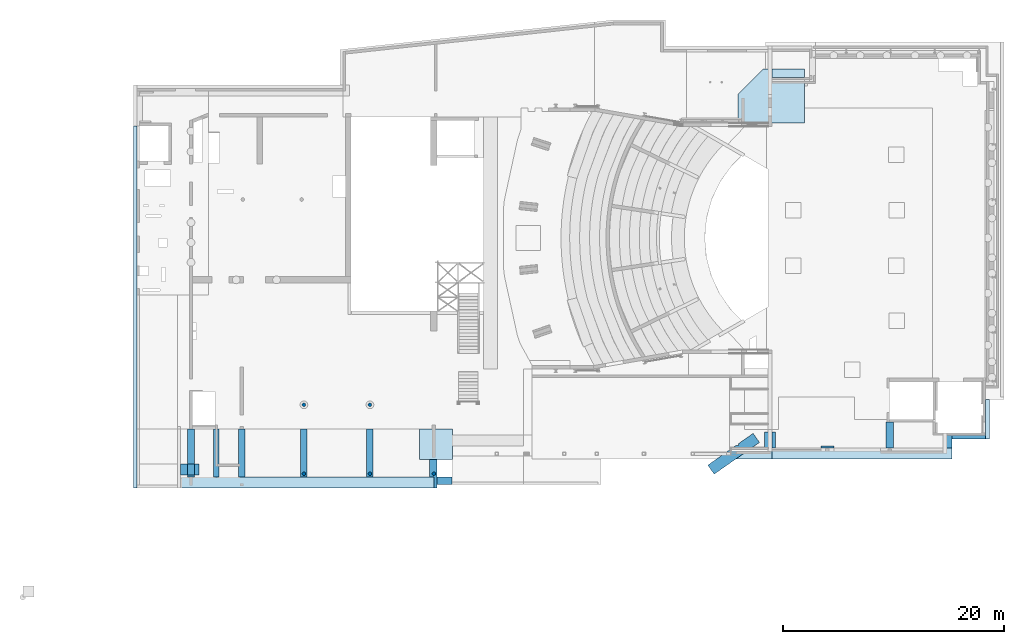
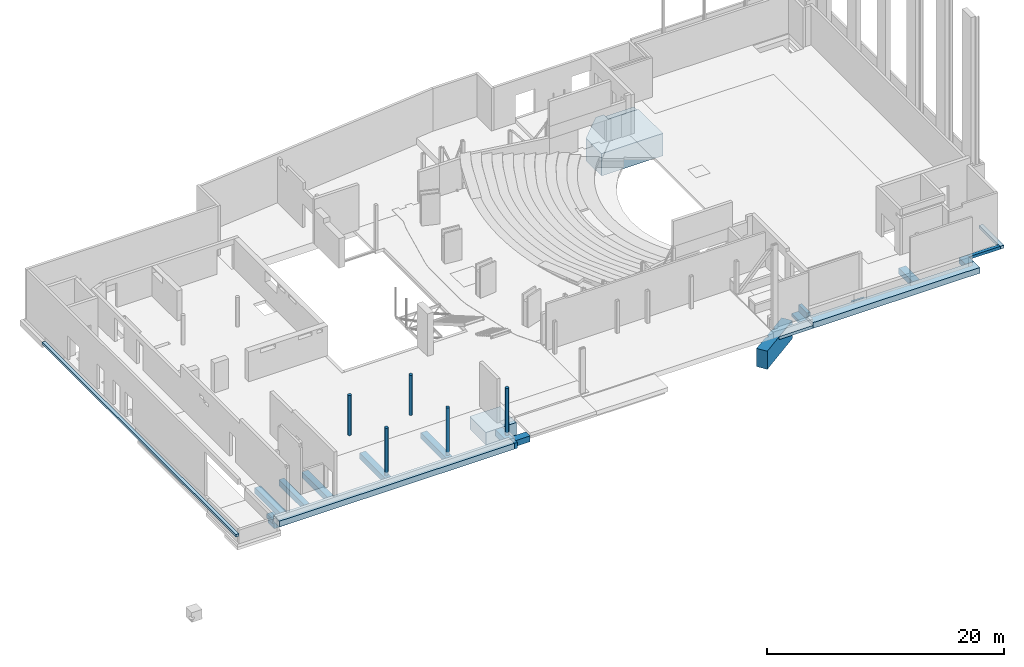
# One storey, part 1 of 34: 21 footings, 5 columns.
"""IFC2X3 building model written with IfcOpenShell, lengths in millimetres."""

from ifc_helpers import new_model, entity, si_unit, converted_unit, derived_unit, direction, frame, frame_2d, origin, origin_2d_with_axis, place, context, subcontext, project, spatial, polyline, rectangle, circle, hollow_circle, outline, extrude, faceted_brep, source, transform, mapped, material, material_list, type_object, type_shapes, element, save


model = new_model("IFC2X3")

# Units and contexts
model_context = context("Model", 3, precision=0.01, world=origin(), true_north=direction((6.12303176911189e-17, 1.0)))
body_context = subcontext(model_context, "Body", "Model", "MODEL_VIEW")
ifc_project = project(units=[si_unit("LENGTHUNIT", "METRE", prefix="MILLI"), si_unit("AREAUNIT", "SQUARE_METRE", prefix="MILLI"), si_unit("VOLUMEUNIT", "CUBIC_METRE"), converted_unit("PLANEANGLEUNIT", "DEGREE", entity("IfcRatioMeasure", 0.0174532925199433), si_unit("PLANEANGLEUNIT", "RADIAN"), dimensions=[0, 0, 0, 0, 0, 0, 0]), si_unit("MASSUNIT", "GRAM", prefix="KILO"), derived_unit("MASSDENSITYUNIT", [(si_unit("MASSUNIT", "GRAM", prefix="KILO"), 1), (si_unit("LENGTHUNIT", "METRE"), -3)]), derived_unit("MOMENTOFINERTIAUNIT", [(si_unit("LENGTHUNIT", "METRE"), 4)]), si_unit("TIMEUNIT", "SECOND"), si_unit("FREQUENCYUNIT", "HERTZ"), si_unit("THERMODYNAMICTEMPERATUREUNIT", "DEGREE_CELSIUS"), derived_unit("THERMALTRANSMITTANCEUNIT", [(si_unit("MASSUNIT", "GRAM", prefix="KILO"), 1), (si_unit("THERMODYNAMICTEMPERATUREUNIT", "KELVIN"), -1), (si_unit("TIMEUNIT", "SECOND"), -3)]), derived_unit("VOLUMETRICFLOWRATEUNIT", [(si_unit("LENGTHUNIT", "METRE"), 3), (si_unit("TIMEUNIT", "SECOND"), -1)]), si_unit("ELECTRICCURRENTUNIT", "AMPERE"), si_unit("ELECTRICVOLTAGEUNIT", "VOLT"), si_unit("POWERUNIT", "WATT"), si_unit("FORCEUNIT", "NEWTON", prefix="KILO"), si_unit("ILLUMINANCEUNIT", "LUX"), si_unit("LUMINOUSFLUXUNIT", "LUMEN"), si_unit("LUMINOUSINTENSITYUNIT", "CANDELA"), derived_unit("USERDEFINED", [(si_unit("MASSUNIT", "GRAM", prefix="KILO"), -1), (si_unit("LENGTHUNIT", "METRE"), -2), (si_unit("TIMEUNIT", "SECOND"), 3), (si_unit("LUMINOUSFLUXUNIT", "LUMEN"), 1)]), derived_unit("LINEARVELOCITYUNIT", [(si_unit("LENGTHUNIT", "METRE"), 1), (si_unit("TIMEUNIT", "SECOND"), -1)]), si_unit("PRESSUREUNIT", "PASCAL"), derived_unit("USERDEFINED", [(si_unit("LENGTHUNIT", "METRE"), -2), (si_unit("MASSUNIT", "GRAM", prefix="KILO"), 1), (si_unit("TIMEUNIT", "SECOND"), -2)]), derived_unit("LINEARFORCEUNIT", [(si_unit("MASSUNIT", "GRAM", prefix="KILO"), 1), (si_unit("LENGTHUNIT", "METRE"), 1), (si_unit("TIMEUNIT", "SECOND"), -2), (si_unit("LENGTHUNIT", "METRE"), -1)]), derived_unit("PLANARFORCEUNIT", [(si_unit("MASSUNIT", "GRAM", prefix="KILO"), 1), (si_unit("LENGTHUNIT", "METRE"), 1), (si_unit("TIMEUNIT", "SECOND"), -2), (si_unit("LENGTHUNIT", "METRE"), -2)])], contexts=[model_context])

# Site, building, storey
site_placement = place(None, origin())
site = spatial("IfcSite", under=ifc_project, at=site_placement, Name="Theater aan de Parade", CompositionType="ELEMENT")
building_placement = place(site_placement, origin())
building = spatial("IfcBuilding", under=site, at=building_placement, Name="Theater aan de Parade", CompositionType="ELEMENT")
storey_placement = place(building_placement, frame((0.0, 0.0, 3.49116848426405e-09)))
storey = spatial("IfcBuildingStorey", under=building, at=storey_placement, Name="00 begane grond", CompositionType="ELEMENT", Elevation=3.49116848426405e-09)

# Footings
ifc_material_1 = material(Name="00_PBT_MAT_beton t.p.g._C30/37")
type_product_1 = type_object("IfcTypeProduct", Name="16_PBT_SF_funderingsbalk:C30/37_600x600", material=ifc_material_1)
shared_shape_1 = source(origin(), body_context, "Body", "SweptSolid", [
    extrude(rectangle(XDim=4320.00000000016, YDim=600.000000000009, at=frame_2d((9.09494701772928e-13, 1.10844666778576e-12), x_axis=(1.0, 0.0))), frame((19803.857002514, 13030.0, -1135.0), z_axis=(0.0, 0.0, 1.0), x_axis=(0.0, -1.0, 0.0)), (0.0, 0.0, 1.0), 600.0),
])
type_shapes(type_product_1, [shared_shape_1])
footing_1_placement = place(storey_placement, frame((0.0, 0.0, -3.49116848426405e-09)))
element("IfcFooting", 1, at=footing_1_placement, inside=storey, type_object=type_product_1, material=ifc_material_1, Name="16_PBT_SF_funderingsbalk:C30/37_600x600", ObjectType="16_PBT_SF_funderingsbalk:C30/37_600x600", context=body_context, shape_type="MappedRepresentation", body=[
    mapped(shared_shape_1, transform((0.0, 0.0, 0.0), scale=1.0)),
])
type_product_2 = type_object("IfcTypeProduct", Name="16_PBT_SF_funderingsbalk:C30/37_600x600", material=ifc_material_1)
shared_shape_2 = source(origin(), body_context, "Body", "SweptSolid", [
    extrude(rectangle(XDim=4320.00000000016, YDim=600.000000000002, at=frame_2d((-739.999999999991, 2.24531504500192e-12), x_axis=(1.0, 0.0))), frame((15203.857002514, 12290.0, -1135.0), z_axis=(0.0, 0.0, 1.0), x_axis=(0.0, -1.0, 0.0)), (0.0, 0.0, 1.0), 600.0),
])
type_shapes(type_product_2, [shared_shape_2])
footing_2_placement = place(storey_placement, frame((0.0, 0.0, -3.49116848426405e-09)))
element("IfcFooting", 2, at=footing_2_placement, inside=storey, type_object=type_product_2, material=ifc_material_1, Name="16_PBT_SF_funderingsbalk:C30/37_600x600", ObjectType="16_PBT_SF_funderingsbalk:C30/37_600x600", context=body_context, shape_type="MappedRepresentation", body=[
    mapped(shared_shape_2, transform((0.0, 0.0, 0.0), scale=1.0)),
])
type_product_3 = type_object("IfcTypeProduct", Name="16_PBT_SF_funderingsbalk:C30/37_500x600", material=ifc_material_1)
shared_shape_3 = source(origin(), body_context, "Body", "SweptSolid", [
    extrude(rectangle(XDim=4320.00000000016, YDim=500.000000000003, at=frame_2d((0.0, -1.08002495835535e-12), x_axis=(1.0, 0.0))), frame((17503.8570025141, 13030.0, -1135.0), z_axis=(0.0, 0.0, 1.0), x_axis=(0.0, -1.0, 0.0)), (0.0, 0.0, 1.0), 600.0),
])
type_shapes(type_product_3, [shared_shape_3])
footing_3_placement = place(storey_placement, frame((0.0, 0.0, -3.49116848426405e-09)))
element("IfcFooting", 3, at=footing_3_placement, inside=storey, type_object=type_product_3, material=ifc_material_1, Name="16_PBT_SF_funderingsbalk:C30/37_500x600", ObjectType="16_PBT_SF_funderingsbalk:C30/37_500x600", context=body_context, shape_type="MappedRepresentation", body=[
    mapped(shared_shape_3, transform((0.0, 0.0, 0.0), scale=1.0)),
])
type_product_4 = type_object("IfcTypeProduct", Name="16_PBT_SF_funderingsbalk:C30/37_700x600", material=ifc_material_1)
shared_shape_4 = source(origin(), body_context, "Body", "SweptSolid", [
    extrude(outline(polyline([(-1517.73827627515, -450.0), (52.5794254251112, -450.0), (52.5794254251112, -50.0), (1052.57942542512, -50.0), (1052.57942542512, 250.0), (762.579425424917, 250.0), (62.579425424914, 250.0), (-1517.73827627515, 250.0), (-1517.73827627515, -450.0)])), frame((37203.8581300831, 10922.5794254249, -1135.0), z_axis=(0.0, 0.0, 1.0), x_axis=(0.0, -1.0, 0.0)), (0.0, 0.0, 1.0), 600.0),
])
type_shapes(type_product_4, [shared_shape_4])
footing_4_placement = place(storey_placement, frame((0.0, 0.0, -3.49116848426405e-09)))
element("IfcFooting", 4, at=footing_4_placement, inside=storey, type_object=type_product_4, material=ifc_material_1, Name="16_PBT_SF_funderingsbalk:C30/37_700x600", ObjectType="16_PBT_SF_funderingsbalk:C30/37_700x600", context=body_context, shape_type="MappedRepresentation", body=[
    mapped(shared_shape_4, transform((0.0, 0.0, 0.0), scale=1.0)),
])
type_product_5 = type_object("IfcTypeProduct", Name="16_PBT_SF_funderingsbalk:C30/37_1000x740", material=ifc_material_1)
shared_shape_5 = source(origin(), body_context, "Body", "SweptSolid", [
    extrude(outline(polyline([(-1162.42336301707, -400.0), (-487.423363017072, -400.0), (692.061041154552, -400.0), (2120.2090478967, 600.0), (-1162.42336301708, 600.0), (-1162.42336301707, -400.0)])), frame((66543.8327379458, 13070.0, -990.0), z_axis=(0.0, 0.0, 1.0), x_axis=(-1.0, 0.0, 0.0)), (0.0, 0.0, 1.0), 309.999999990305),
])
type_shapes(type_product_5, [shared_shape_5])
footing_5_placement = place(storey_placement, frame((0.0, 0.0, -3.49116848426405e-09)))
element("IfcFooting", 5, at=footing_5_placement, inside=storey, type_object=type_product_5, material=ifc_material_1, Name="16_PBT_SF_funderingsbalk:C30/37_1000x740", ObjectType="16_PBT_SF_funderingsbalk:C30/37_1000x740", context=body_context, shape_type="MappedRepresentation", body=[
    mapped(shared_shape_5, transform((0.0, 0.0, 0.0), scale=1.0)),
])
type_product_6 = type_object("IfcTypeProduct", Name="16_PBT_SF_funderingsbalk:C30/37_800x600", material=ifc_material_1)
shared_shape_6 = source(origin(), body_context, "Body", "SweptSolid", [
    extrude(rectangle(XDim=1130.00000000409, YDim=800.000000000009, at=frame_2d((-5.40012479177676e-12, -8.66862137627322e-12), x_axis=(1.0, 0.0))), frame((83570.0, 14035.0, -990.0), z_axis=(0.0, 0.0, 1.0), x_axis=(0.0, -1.0, 0.0)), (0.0, 0.0, 1.0), 600.0),
])
type_shapes(type_product_6, [shared_shape_6])
footing_6_placement = place(storey_placement, frame((0.0, 0.0, -3.49116848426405e-09)))
element("IfcFooting", 6, at=footing_6_placement, inside=storey, type_object=type_product_6, material=ifc_material_1, Name="16_PBT_SF_funderingsbalk:C30/37_800x600", ObjectType="16_PBT_SF_funderingsbalk:C30/37_800x600", context=body_context, shape_type="MappedRepresentation", body=[
    mapped(shared_shape_6, transform((0.0, 0.0, 0.0), scale=1.0)),
])
type_product_7 = type_object("IfcTypeProduct", Name="16_PBT_SF_funderingsbalk:C30/37_1000x600", material=ifc_material_1)
shared_shape_7 = source(origin(), body_context, "Body", "SweptSolid", [
    extrude(rectangle(XDim=16263.7438990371, YDim=1000.0, at=frame_2d((168.751220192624, -299.999999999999), x_axis=(1.0, 0.0))), frame((75669.3768302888, 13270.0, -990.0)), (0.0, 0.0, 1.0), 600.0),
])
type_shapes(type_product_7, [shared_shape_7])
footing_7_placement = place(storey_placement, frame((0.0, 0.0, -3.49116848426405e-09)))
element("IfcFooting", 7, at=footing_7_placement, inside=storey, type_object=type_product_7, material=ifc_material_1, Name="16_PBT_SF_funderingsbalk:C30/37_1000x600", ObjectType="16_PBT_SF_funderingsbalk:C30/37_1000x600", context=body_context, shape_type="MappedRepresentation", body=[
    mapped(shared_shape_7, transform((0.0, 0.0, 0.0), scale=1.0)),
])
type_product_8 = type_object("IfcTypeProduct", Name="16_PBT_SFO_beton_poer:C30/37_1000x5000x1870", material=ifc_material_1)
shared_shape_8 = source(origin(), body_context, "Body", "SweptSolid", [
    extrude(outline(polyline([(-786.12857746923, -2398.65592871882), (213.871422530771, -2398.65592871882), (213.871422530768, -768.135712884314), (68.2755496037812, -666.188385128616), (211.669658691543, -461.400374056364), (213.871422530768, -462.942065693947), (213.871422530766, 458.011481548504), (9.08341145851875, 601.405590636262), (213.87142253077, 893.873180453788), (213.871422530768, 2601.34407128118), (-786.128577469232, 2601.34407128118), (-786.12857746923, -2398.65592871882)])), frame((64163.451668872, 13247.5113804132, -2550.0), z_axis=(0.0, 0.0, 1.0), x_axis=(-0.573576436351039, 0.819152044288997, 0.0)), (0.0, 0.0, 1.0), 1870.0),
])
type_shapes(type_product_8, [shared_shape_8])
footing_8_placement = place(storey_placement, frame((0.0, 0.0, -3.49116848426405e-09)))
element("IfcFooting", 8, at=footing_8_placement, inside=storey, type_object=type_product_8, material=ifc_material_1, Name="16_PBT_SFO_beton_poer:C30/37_1000x5000x1870", ObjectType="16_PBT_SFO_beton_poer:C30/37_1000x5000x1870", context=body_context, shape_type="MappedRepresentation", body=[
    mapped(shared_shape_8, transform((0.0, 0.0, 0.0), scale=1.0)),
])
type_product_9 = type_object("IfcTypeProduct", Name="16_PBT_SFO_beton_poer:C30/37_2750x2962x1300", material=ifc_material_1)
shared_shape_9 = source(origin(), body_context, "Body", "SweptSolid", [
    extrude(rectangle(XDim=2750.0, YDim=2961.2, at=frame_2d((1.02318153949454e-12, 2.1600499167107e-12), x_axis=(1.0, 0.0))), frame((37334.4581300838, 13815.3177017, -1835.0), z_axis=(0.0, 0.0, 1.0), x_axis=(0.0, 1.0, 0.0)), (0.0, 0.0, 1.0), 1300.0),
])
type_shapes(type_product_9, [shared_shape_9])
footing_9_placement = place(storey_placement, frame((0.0, 0.0, -3.49116848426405e-09)))
element("IfcFooting", 9, at=footing_9_placement, inside=storey, type_object=type_product_9, material=ifc_material_1, Name="16_PBT_SFO_beton_poer:C30/37_2750x2962x1300", ObjectType="16_PBT_SFO_beton_poer:C30/37_2750x2962x1300", context=body_context, shape_type="MappedRepresentation", body=[
    mapped(shared_shape_9, transform((0.0, 0.0, 0.0), scale=1.0)),
])
type_product_10 = type_object("IfcTypeProduct", Name="16_PBT_SF_funderingsbalk:C30/37_1000x600", material=ifc_material_1)
shared_shape_10 = source(origin(), body_context, "Body", "SweptSolid", [
    extrude(rectangle(XDim=22909.7448179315, YDim=1000.0, at=frame_2d((-1822.78951914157, 366.666666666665), x_axis=(1.0, 0.0))), frame((23876.1962019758, 10736.6666666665, -1135.0), z_axis=(0.0, 0.0, 1.0), x_axis=(-1.0, 0.0, 0.0)), (0.0, 0.0, 1.0), 600.0),
])
type_shapes(type_product_10, [shared_shape_10])
footing_10_placement = place(storey_placement, frame((0.0, 0.0, -3.49116848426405e-09)))
element("IfcFooting", 10, at=footing_10_placement, inside=storey, type_object=type_product_10, material=ifc_material_1, Name="16_PBT_SF_funderingsbalk:C30/37_1000x600", ObjectType="16_PBT_SF_funderingsbalk:C30/37_1000x600", context=body_context, shape_type="MappedRepresentation", body=[
    mapped(shared_shape_10, transform((0.0, 0.0, 0.0), scale=1.0)),
])
type_product_11 = type_object("IfcTypeProduct", Name="16_PBT_SF_funderingsbalk:C30/37_600x600", material=ifc_material_1)
shared_shape_11 = source(origin(), body_context, "Body", "SweptSolid", [
    extrude(rectangle(XDim=4320.00000000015, YDim=600.000000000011, at=frame_2d((-1.13686837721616e-12, 0.0), x_axis=(1.0, 0.0))), frame((25410.0, 13030.0, -1135.0), z_axis=(0.0, 0.0, 1.0), x_axis=(0.0, -1.0, 0.0)), (0.0, 0.0, 1.0), 600.0),
])
type_shapes(type_product_11, [shared_shape_11])
footing_11_placement = place(storey_placement, frame((0.0, 0.0, -3.49116848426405e-09)))
element("IfcFooting", 11, at=footing_11_placement, inside=storey, type_object=type_product_11, material=ifc_material_1, Name="16_PBT_SF_funderingsbalk:C30/37_600x600", ObjectType="16_PBT_SF_funderingsbalk:C30/37_600x600", context=body_context, shape_type="MappedRepresentation", body=[
    mapped(shared_shape_11, transform((0.0, 0.0, 0.0), scale=1.0)),
])
type_product_12 = type_object("IfcTypeProduct", Name="16_PBT_SF_funderingsbalk:C30/37_600x600", material=ifc_material_1)
shared_shape_12 = source(origin(), body_context, "Body", "SweptSolid", [
    extrude(rectangle(XDim=4320.00000000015, YDim=600.000000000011, at=frame_2d((9.09494701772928e-13, -4.34852154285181e-12), x_axis=(1.0, 0.0))), frame((31375.0, 13030.0, -1135.0), z_axis=(0.0, 0.0, 1.0), x_axis=(0.0, -1.0, 0.0)), (0.0, 0.0, 1.0), 600.0),
])
type_shapes(type_product_12, [shared_shape_12])
footing_12_placement = place(storey_placement, frame((0.0, 0.0, -3.49116848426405e-09)))
element("IfcFooting", 12, at=footing_12_placement, inside=storey, type_object=type_product_12, material=ifc_material_1, Name="16_PBT_SF_funderingsbalk:C30/37_600x600", ObjectType="16_PBT_SF_funderingsbalk:C30/37_600x600", context=body_context, shape_type="MappedRepresentation", body=[
    mapped(shared_shape_12, transform((0.0, 0.0, 0.0), scale=1.0)),
])
type_product_13 = type_object("IfcTypeProduct", Name="16_PBT_SF_funderingsbalk:C30/37_1000x970", material=ifc_material_1)
shared_shape_13 = source(origin(), body_context, "Body", "SweptSolid", [
    extrude(outline(polyline([(-536.666666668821, -402.77777777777), (433.333333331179, -402.77777777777), (433.333333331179, -77.7777777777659), (433.333333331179, 597.222222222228), (123.333333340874, 597.222222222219), (123.333333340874, -77.7777777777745), (-166.666666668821, -77.7777777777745), (-306.666666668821, -77.7777777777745), (-536.666666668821, -77.7777777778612), (-536.666666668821, -402.77777777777)])), frame((67628.4783231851, 13470.0, -556.666666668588), z_axis=(0.0, 1.0, 0.0), x_axis=(0.0, 0.0, -1.0)), (0.0, 0.0, 1.0), 1450.00000000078),
])
type_shapes(type_product_13, [shared_shape_13])
footing_13_placement = place(storey_placement, frame((0.0, 0.0, -3.49116848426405e-09)))
element("IfcFooting", 13, at=footing_13_placement, inside=storey, type_object=type_product_13, material=ifc_material_1, Name="16_PBT_SF_funderingsbalk:C30/37_1000x970", ObjectType="16_PBT_SF_funderingsbalk:C30/37_1000x970", context=body_context, shape_type="MappedRepresentation", body=[
    mapped(shared_shape_13, transform((0.0, 0.0, 0.0), scale=1.0)),
])
type_product_14 = type_object("IfcTypeProduct", Name="16_PBT_SF_funderingsbalk:C30/37_700x600", material=ifc_material_1)
shared_shape_14 = source(origin(), body_context, "Body", "SweptSolid", [
    extrude(rectangle(XDim=1361.14186991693, YDim=700.000000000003, at=frame_2d((-2.21689333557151e-12, 0.0), x_axis=(1.0, 0.0))), frame((38134.4290650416, 10510.0, -1135.0), z_axis=(0.0, 0.0, 1.0), x_axis=(-1.0, 0.0, 0.0)), (0.0, 0.0, 1.0), 600.0),
])
type_shapes(type_product_14, [shared_shape_14])
footing_14_placement = place(storey_placement, frame((0.0, 0.0, -3.49116848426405e-09)))
element("IfcFooting", 14, at=footing_14_placement, inside=storey, type_object=type_product_14, material=ifc_material_1, Name="16_PBT_SF_funderingsbalk:C30/37_700x600", ObjectType="16_PBT_SF_funderingsbalk:C30/37_700x600", context=body_context, shape_type="MappedRepresentation", body=[
    mapped(shared_shape_14, transform((0.0, 0.0, 0.0), scale=1.0)),
])
type_product_15 = type_object("IfcTypeProduct", Name="16_PBT_SF_funderingsbalk:C30/37_1000x1005", material=ifc_material_1)
shared_shape_15 = source(origin(), body_context, "Body", "SweptSolid", [
    extrude(outline(polyline([(-938.811874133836, -715.0), (602.074813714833, -715.0), (602.074813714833, -115.0), (752.074813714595, -115.0), (752.074813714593, 290.0), (92.3311233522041, 290.0), (92.3311233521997, 250.0), (-507.6688766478, 250.0), (-507.6688766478, 290.0), (-938.811874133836, 290.0), (-938.811874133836, -715.0)])), frame((14996.1881258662, 11050.0, -1385.0), z_axis=(0.0, 1.0, 0.0), x_axis=(-1.0, 0.0, 0.0)), (0.0, 0.0, 1.0), 1000.0),
])
type_shapes(type_product_15, [shared_shape_15])
footing_15_placement = place(storey_placement, frame((0.0, 0.0, -3.49116848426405e-09)))
element("IfcFooting", 15, at=footing_15_placement, inside=storey, type_object=type_product_15, material=ifc_material_1, Name="16_PBT_SF_funderingsbalk:C30/37_1000x1005", ObjectType="16_PBT_SF_funderingsbalk:C30/37_1000x1005", context=body_context, shape_type="MappedRepresentation", body=[
    mapped(shared_shape_15, transform((0.0, 0.0, 0.0), scale=1.0)),
])
type_product_16 = type_object("IfcTypeProduct", Name="16_PBT_SF_funderingsbalk:C30/37_700x600", material=ifc_material_1)
shared_shape_16 = source(origin(), body_context, "Body", "SweptSolid", [
    extrude(rectangle(XDim=2340.00000000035, YDim=700.000000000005, at=frame_2d((4.32009983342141e-12, -1.3017142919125e-11), x_axis=(1.0, 0.0))), frame((78350.0, 14640.0, -990.0), z_axis=(0.0, 0.0, 1.0), x_axis=(0.0, 1.0, 0.0)), (0.0, 0.0, 1.0), 600.0),
])
type_shapes(type_product_16, [shared_shape_16])
footing_16_placement = place(storey_placement, frame((0.0, 0.0, -3.49116848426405e-09)))
element("IfcFooting", 16, at=footing_16_placement, inside=storey, type_object=type_product_16, material=ifc_material_1, Name="16_PBT_SF_funderingsbalk:C30/37_700x600", ObjectType="16_PBT_SF_funderingsbalk:C30/37_700x600", context=body_context, shape_type="MappedRepresentation", body=[
    mapped(shared_shape_16, transform((0.0, 0.0, 0.0), scale=1.0)),
])
type_product_17 = type_object("IfcTypeProduct", Name="16_PBT_SF_funderingsbalk:C30/37_1200x600", material=ifc_material_1)
shared_shape_17 = source(origin(), body_context, "Body", "SweptSolid", [
    extrude(rectangle(XDim=200.000000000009, YDim=1200.0, at=frame_2d((-2.16715534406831e-12, 0.0), x_axis=(1.0, 0.0))), frame((72720.0, 13570.0, -990.0), z_axis=(0.0, 0.0, 1.0), x_axis=(0.0, -1.0, 0.0)), (0.0, 0.0, 1.0), 600.0),
])
type_shapes(type_product_17, [shared_shape_17])
footing_17_placement = place(storey_placement, frame((0.0, 0.0, -3.49116848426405e-09)))
element("IfcFooting", 17, at=footing_17_placement, inside=storey, type_object=type_product_17, material=ifc_material_1, Name="16_PBT_SF_funderingsbalk:C30/37_1200x600", ObjectType="16_PBT_SF_funderingsbalk:C30/37_1200x600", context=body_context, shape_type="MappedRepresentation", body=[
    mapped(shared_shape_17, transform((0.0, 0.0, 0.0), scale=1.0)),
])
type_product_18 = type_object("IfcTypeProduct", Name="16_PBT_SF_funderingsbalk:C30/37_310x300_aangestorte nok", material=ifc_material_1)
shared_shape_18 = source(origin(), body_context, "Body", "SweptSolid", [
    extrude(rectangle(XDim=3045.99999999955, YDim=310.000000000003, at=origin_2d_with_axis()), frame((85493.0, 14445.0, -690.0)), (0.0, 0.0, 1.0), 300.0),
])
type_shapes(type_product_18, [shared_shape_18])
footing_18_placement = place(storey_placement, frame((0.0, 0.0, -3.49116848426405e-09)))
element("IfcFooting", 18, at=footing_18_placement, inside=storey, type_object=type_product_18, material=ifc_material_1, Name="16_PBT_SF_funderingsbalk:C30/37_310x300_aangestorte nok", ObjectType="16_PBT_SF_funderingsbalk:C30/37_310x300_aangestorte nok", context=body_context, shape_type="MappedRepresentation", body=[
    mapped(shared_shape_18, transform((0.0, 0.0, 0.0), scale=1.0)),
])
type_product_19 = type_object("IfcTypeProduct", Name="16_PBT_SF_funderingsbalk:C30/37_360x300_aangestorte nok", material=ifc_material_1)
shared_shape_19 = source(origin(), body_context, "Body", "SweptSolid", [
    extrude(rectangle(XDim=3564.99999999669, YDim=360.000000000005, at=frame_2d((-294.499999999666, 35.999999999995), x_axis=(1.0, 0.0))), frame((87160.0, 15778.0, -690.0), z_axis=(0.0, 0.0, 1.0), x_axis=(0.0, -1.0, 0.0)), (0.0, 0.0, 1.0), 300.0),
])
type_shapes(type_product_19, [shared_shape_19])
footing_19_placement = place(storey_placement, frame((0.0, 0.0, -3.49116848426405e-09)))
element("IfcFooting", 19, at=footing_19_placement, inside=storey, type_object=type_product_19, material=ifc_material_1, Name="16_PBT_SF_funderingsbalk:C30/37_360x300_aangestorte nok", ObjectType="16_PBT_SF_funderingsbalk:C30/37_360x300_aangestorte nok", context=body_context, shape_type="MappedRepresentation", body=[
    mapped(shared_shape_19, transform((0.0, 0.0, 0.0), scale=1.0)),
])
type_product_20 = type_object("IfcTypeProduct", Name="16_PBT_SF_funderingsbalk:C30/37_300x250_aangestorte nok", material=ifc_material_1)
shared_shape_20 = source(origin(), body_context, "Body", "SweptSolid", [
    extrude(rectangle(XDim=32700.0000000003, YDim=300.000000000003, at=frame_2d((2452.49999999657, -60.7359307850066), x_axis=(1.0, 0.0))), frame((10214.848484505, 28672.4999999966, -690.0), z_axis=(0.0, 0.0, 1.0), x_axis=(0.0, -1.0, 0.0)), (0.0, 0.0, 1.0), 250.0),
])
type_shapes(type_product_20, [shared_shape_20])
footing_20_placement = place(storey_placement, frame((0.0, 0.0, -3.49116848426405e-09)))
element("IfcFooting", 20, at=footing_20_placement, inside=storey, type_object=type_product_20, material=ifc_material_1, Name="16_PBT_SF_funderingsbalk:C30/37_300x250_aangestorte nok", ObjectType="16_PBT_SF_funderingsbalk:C30/37_300x250_aangestorte nok", context=body_context, shape_type="MappedRepresentation", body=[
    mapped(shared_shape_20, transform((0.0, 0.0, 0.0), scale=1.0)),
])
ifc_material_2 = material(Name="00_PBT_MAT_beton t.p.g._C53/65")
footing_21_placement = place(storey_placement, origin())
element("IfcFooting", 21, at=footing_21_placement, inside=storey, material=ifc_material_2, Name="Foundation Slab:16_PBT_FS_beton t.p.g._d=2300_C53/65", ObjectType="Foundation Slab:16_PBT_FS_beton t.p.g._d=2300_C53/65", PredefinedType="NOTDEFINED", context=body_context, shape_type="Brep", body=[
    faceted_brep([(70640.0, 42849.9998242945, -2640.0), (64662.0520755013, 42849.9998242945, -2640.0), (64662.0520755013, 45486.9998242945, -2640.0), (66897.0522512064, 47722.0, -2640.0), (70640.0, 47722.0, -2640.0), (64662.0520755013, 42849.9998242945, -340.0), (70640.0, 42849.9998242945, -340.0), (70640.0, 46411.8723406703, -340.0), (70640.0, 46961.8723406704, -340.0), (67706.2561009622, 46961.8723406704, -340.0), (67706.2561009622, 47722.0, -340.0), (67356.256100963, 47722.0, -340.0), (66897.0522512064, 47722.0, -340.0), (64662.0520755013, 45486.9998242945, -340.0), (67706.2561009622, 47722.0, -550.0), (70640.0, 47722.0, -550.0), (70640.0, 47722.0, -950.0), (70640.0, 46961.8723406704, -550.0), (67706.2561009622, 46961.8723406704, -550.0)], [[[0, 1, 2, 3, 4]], [[5, 6, 7, 8, 9, 10, 11, 12, 13]], [[1, 0, 6, 5]], [[2, 1, 5, 13]], [[3, 2, 13, 12]], [[4, 3, 12, 11, 10, 14, 15, 16]], [[0, 4, 16, 15, 17, 8, 7, 6]], [[14, 18, 17, 15]], [[18, 14, 10, 9]], [[17, 18, 9, 8]]]),
])

# Columns
ifc_material_3 = material(Name="00_PBT_MAT_beton t.p.g._C40/50")
ifc_material_4 = material(Name="00_PBT_MAT_staal_S355")
ifc_material_list_1 = material_list([ifc_material_3, ifc_material_4])
ifc_material_list_2 = material_list([ifc_material_3, ifc_material_4])
column_type_1 = type_object("IfcColumnType", Name="28_PBT_SC_staal_buis:S355_B323.9x16_GB_C40/50", PredefinedType="COLUMN", material=ifc_material_list_2)
shared_shape_21 = source(origin(), body_context, "Body", "SweptSolid", [
    extrude(circle(Radius=145.95, at=frame_2d((0.0, 2.16573425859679e-12), x_axis=(1.0, 0.0))), frame((25410.0, 17380.0, -90.0)), (0.0, 0.0, 1.0), 4129.99999999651),
    extrude(hollow_circle(Radius=161.95, WallThickness=16.0, at=origin_2d_with_axis()), frame((25410.0, 17380.0, -90.0), z_axis=(0.0, 0.0, 1.0), x_axis=(-1.0, 0.0, 0.0)), (0.0, 0.0, 1.0), 4129.99999999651),
])
type_shapes(column_type_1, [shared_shape_21])
column_1_placement = place(storey_placement, frame((0.0, 0.0, -3.49116848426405e-09)))
element("IfcColumn", 22, at=column_1_placement, inside=storey, type_object=column_type_1, material=ifc_material_list_1, Name="28_PBT_SC_staal_buis:S355_B323.9x16_GB_C40/50", ObjectType="28_PBT_SC_staal_buis:S355_B323.9x16_GB_C40/50", context=body_context, shape_type="MappedRepresentation", body=[
    mapped(shared_shape_21, transform((0.0, 0.0, 0.0), scale=1.0)),
])
ifc_material_list_3 = material_list([ifc_material_3, ifc_material_4])
ifc_material_list_4 = material_list([ifc_material_3, ifc_material_4])
column_type_2 = type_object("IfcColumnType", Name="28_PBT_SC_staal_buis:S355_B323.9x16_GB_C40/50", PredefinedType="COLUMN", material=ifc_material_list_4)
shared_shape_22 = source(origin(), body_context, "Body", "SweptSolid", [
    extrude(circle(Radius=145.95, at=origin_2d_with_axis()), frame((31375.0, 17380.0, -90.0)), (0.0, 0.0, 1.0), 4129.99999999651),
    extrude(hollow_circle(Radius=161.95, WallThickness=16.0, at=origin_2d_with_axis()), frame((31375.0, 17380.0, -90.0), z_axis=(0.0, 0.0, 1.0), x_axis=(-1.0, 0.0, 0.0)), (0.0, 0.0, 1.0), 4129.99999999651),
])
type_shapes(column_type_2, [shared_shape_22])
column_2_placement = place(storey_placement, frame((0.0, 0.0, -3.49116848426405e-09)))
element("IfcColumn", 23, at=column_2_placement, inside=storey, type_object=column_type_2, material=ifc_material_list_3, Name="28_PBT_SC_staal_buis:S355_B323.9x16_GB_C40/50", ObjectType="28_PBT_SC_staal_buis:S355_B323.9x16_GB_C40/50", context=body_context, shape_type="MappedRepresentation", body=[
    mapped(shared_shape_22, transform((0.0, 0.0, 0.0), scale=1.0)),
])
ifc_material_list_5 = material_list([ifc_material_3, ifc_material_4])
ifc_material_list_6 = material_list([ifc_material_3, ifc_material_4])
column_type_3 = type_object("IfcColumnType", Name="28_PBT_SC_staal_buis:S355_B323.9x16_GB_C40/50", PredefinedType="COLUMN", material=ifc_material_list_6)
shared_shape_23 = source(origin(), body_context, "Body", "SweptSolid", [
    extrude(circle(Radius=145.95, at=frame_2d((0.0, 2.16573425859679e-12), x_axis=(1.0, 0.0))), frame((25410.0, 11160.0, -460.0)), (0.0, 0.0, 1.0), 4909.99999999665),
    extrude(hollow_circle(Radius=161.95, WallThickness=16.0, at=origin_2d_with_axis()), frame((25410.0, 11160.0, -460.0), z_axis=(0.0, 0.0, 1.0), x_axis=(-1.0, 0.0, 0.0)), (0.0, 0.0, 1.0), 4909.99999999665),
])
type_shapes(column_type_3, [shared_shape_23])
column_3_placement = place(storey_placement, frame((0.0, 0.0, -3.49116848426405e-09)))
element("IfcColumn", 24, at=column_3_placement, inside=storey, type_object=column_type_3, material=ifc_material_list_5, Name="28_PBT_SC_staal_buis:S355_B323.9x16_GB_C40/50", ObjectType="28_PBT_SC_staal_buis:S355_B323.9x16_GB_C40/50", context=body_context, shape_type="MappedRepresentation", body=[
    mapped(shared_shape_23, transform((0.0, 0.0, 0.0), scale=1.0)),
])
ifc_material_list_7 = material_list([ifc_material_3, ifc_material_4])
ifc_material_list_8 = material_list([ifc_material_3, ifc_material_4])
column_type_4 = type_object("IfcColumnType", Name="28_PBT_SC_staal_buis:S355_B323.9x16_GB_C40/50", PredefinedType="COLUMN", material=ifc_material_list_8)
shared_shape_24 = source(origin(), body_context, "Body", "SweptSolid", [
    extrude(circle(Radius=145.95, at=origin_2d_with_axis()), frame((31375.0, 11160.0, -460.0)), (0.0, 0.0, 1.0), 4909.99999999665),
    extrude(hollow_circle(Radius=161.95, WallThickness=16.0, at=origin_2d_with_axis()), frame((31375.0, 11160.0, -460.0), z_axis=(0.0, 0.0, 1.0), x_axis=(-1.0, 0.0, 0.0)), (0.0, 0.0, 1.0), 4909.99999999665),
])
type_shapes(column_type_4, [shared_shape_24])
column_4_placement = place(storey_placement, frame((0.0, 0.0, -3.49116848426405e-09)))
element("IfcColumn", 25, at=column_4_placement, inside=storey, type_object=column_type_4, material=ifc_material_list_7, Name="28_PBT_SC_staal_buis:S355_B323.9x16_GB_C40/50", ObjectType="28_PBT_SC_staal_buis:S355_B323.9x16_GB_C40/50", context=body_context, shape_type="MappedRepresentation", body=[
    mapped(shared_shape_24, transform((0.0, 0.0, 0.0), scale=1.0)),
])
ifc_material_list_9 = material_list([ifc_material_3, ifc_material_4])
ifc_material_list_10 = material_list([ifc_material_3, ifc_material_4])
column_type_5 = type_object("IfcColumnType", Name="28_PBT_SC_staal_buis:S355_B323.9x16_GB_C40/50", PredefinedType="COLUMN", material=ifc_material_list_10)
shared_shape_25 = source(origin(), body_context, "Body", "SweptSolid", [
    extrude(circle(Radius=145.95, at=origin_2d_with_axis()), frame((37153.8581300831, 11160.0, -420.0)), (0.0, 0.0, 1.0), 4869.99999999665),
    extrude(hollow_circle(Radius=161.95, WallThickness=16.0, at=origin_2d_with_axis()), frame((37153.8581300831, 11160.0, -420.0), z_axis=(0.0, 0.0, 1.0), x_axis=(-1.0, 0.0, 0.0)), (0.0, 0.0, 1.0), 4869.99999999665),
])
type_shapes(column_type_5, [shared_shape_25])
column_5_placement = place(storey_placement, frame((0.0, 0.0, -3.49116848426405e-09)))
element("IfcColumn", 26, at=column_5_placement, inside=storey, type_object=column_type_5, material=ifc_material_list_9, Name="28_PBT_SC_staal_buis:S355_B323.9x16_GB_C40/50", ObjectType="28_PBT_SC_staal_buis:S355_B323.9x16_GB_C40/50", context=body_context, shape_type="MappedRepresentation", body=[
    mapped(shared_shape_25, transform((0.0, 0.0, 0.0), scale=1.0)),
])

save(model, "model.ifc")
